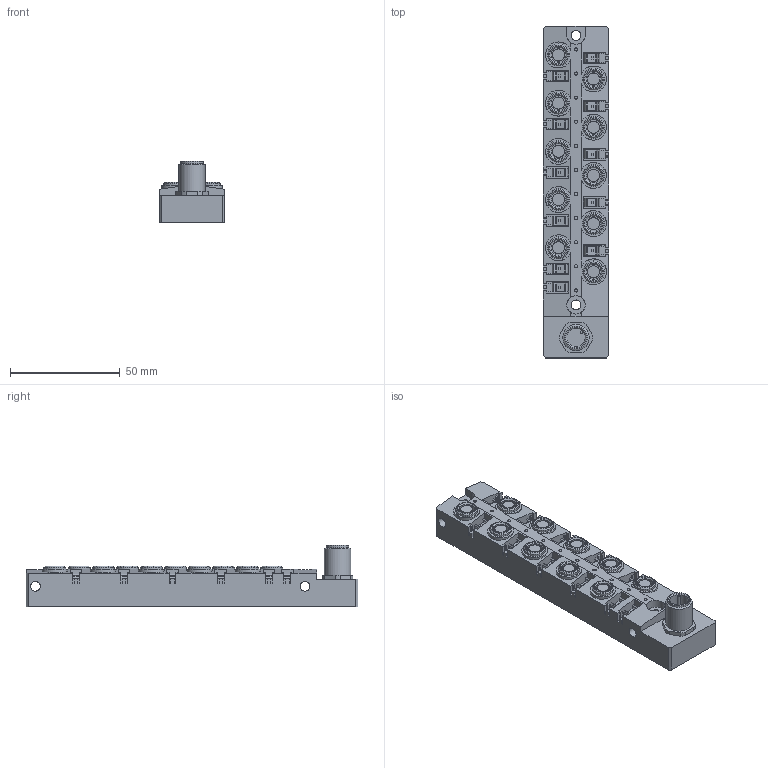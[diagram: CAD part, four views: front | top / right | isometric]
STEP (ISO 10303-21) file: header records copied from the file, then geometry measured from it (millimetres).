
FILE_DESCRIPTION( ( 'STEP AP203' ), ' ' );
FILE_NAME( 'p:/temp/worker_8938/2996_5312/app_55_02017032309580196651173192d056f_000000_00_00_000000/format_1/EBC139.stp', '2017-03-23T08:58:06', ( '' ), ( '' ), ' ', 'PARTsolutions', ' ' );
FILE_SCHEMA( ( 'CONFIG_CONTROL_DESIGN' ) );
Length unit declared in the file: millimetre
Products named in the file (1): _EBC139
Bounding box: 30 x 151.5 x 28 mm (x, y, z)
Volume: 69676.1 mm3; surface area: 21115.4 mm2
Topology: 1 solids, 1 shells, 621 faces, 1631 edges, 1078 vertices
Faces by surface type: plane 471, cylinder 107, cone 22, sphere 11, torus 10
Full cylindrical faces by diameter (mm): 4.5 x8, 5.65 x10, 6.917 x10, 8.4 x3, 10 x10, 10.4 x1, 12 x1
Entity records: 18564 total; most frequent: CARTESIAN_POINT 3240, ORIENTED_EDGE 3096, DIRECTION 3054, EDGE_CURVE 1548, LINE 1286, VECTOR 1286, VERTEX_POINT 1070, AXIS2_PLACEMENT_3D 884
